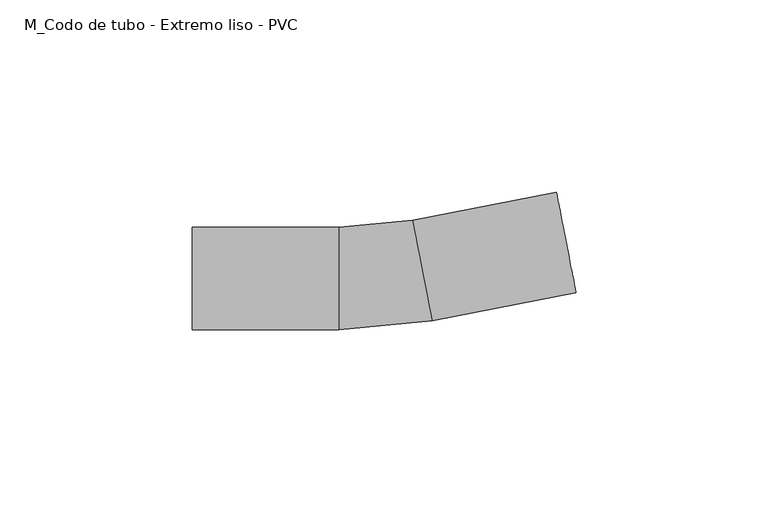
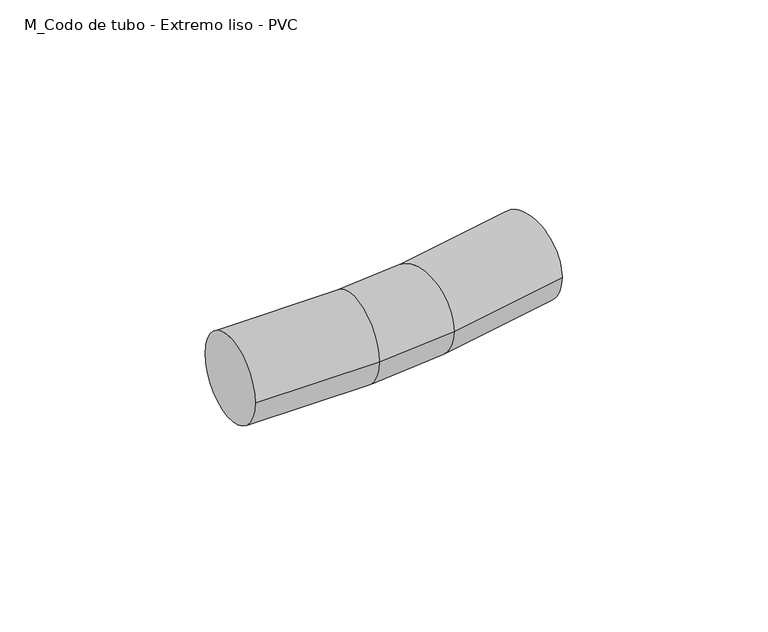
"""IFC4 building model written with IfcOpenShell, lengths in millimetres: cable carrier fitting geometry, M_Codo de tubo - Extremo liso - PVC : CODO ILUMINACION."""

from ifc_helpers import new_model, si_unit, point, frame, origin, place, context, project, spatial, circle_curve, ellipse_curve, trimmed, source, transform, mapped, element, save
from ifc_brep_helpers import plane_surface, cylinder_surface, revolved_surface, advanced_brep


def m_codo_de_tubo_extremo_liso_pvc_01378b5f(model_context):
    return source(origin(), model_context, "Body", "AdvancedBrep", [
        advanced_brep(
        [(-49.1150225, -13.335, 0.0), (-49.1150225, 13.335, 0.0), (-11.0150225, -13.335, 0.0), (-11.0150225, 13.335, 0.0), (8.2657885, 15.1930802, 0.0), (13.3588329, -10.9861062, 0.0), (50.7576705, -3.7103285, 0.0), (45.6646261, 22.4688579, 0.0)],
        [
            (0, 1, circle_curve(frame((-49.1150225, 0.0, 0.0), z_axis=(-1.0, 0.0, 0.0), x_axis=(0.0, 1.0, 0.0)), 13.335)),
            (1, 0, circle_curve(frame((-49.1150225, 0.0, 0.0), z_axis=(-1.0, 0.0, 0.0), x_axis=(0.0, 1.0, 0.0)), 13.335)),
            (0, 2),
            (2, 3, circle_curve(frame((-11.0150225, 0.0, 0.0), z_axis=(-1.0, 0.0, 0.0), x_axis=(0.0, 1.0, 0.0)), 13.335)),
            (3, 1),
            (3, 2, circle_curve(frame((-11.0150225, 0.0, 0.0), z_axis=(-1.0, 0.0, 0.0), x_axis=(0.0, 1.0, 0.0)), 13.335)),
            (4, 3, circle_curve(frame((-11.0150225, 114.3, 0.0), z_axis=(0.0, 0.0, -1.0), x_axis=(0.0, -1.0, 0.0)), 100.965)),
            (2, 5, circle_curve(frame((-11.0150225, 114.3, 0.0), z_axis=(0.0, 0.0, 1.0), x_axis=(0.0, -1.0, 0.0)), 127.635)),
            (5, 4, circle_curve(frame((10.8123107, 2.103487, 0.0), z_axis=(-0.9815967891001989, -0.19096529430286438, 0.0), x_axis=(-0.19096529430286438, 0.9815967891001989, 0.0)), 13.335)),
            (4, 5, circle_curve(frame((10.8123107, 2.103487, 0.0), z_axis=(-0.9815967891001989, -0.1909652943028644, 0.0), x_axis=(-0.1909652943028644, 0.9815967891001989, 0.0)), 13.335)),
            (6, 7, circle_curve(frame((48.2111483, 9.3792647, 0.0), z_axis=(0.981596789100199, 0.1909652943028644, 0.0), x_axis=(-0.1909652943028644, 0.981596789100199, 0.0)), 13.335)),
            (7, 6, circle_curve(frame((48.2111483, 9.3792647, 0.0), z_axis=(0.981596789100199, 0.1909652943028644, 0.0), x_axis=(-0.1909652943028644, 0.981596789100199, 0.0)), 13.335)),
            (5, 6),
            (7, 4),
        ],
        [
            plane_surface(frame((-49.1150225, 0.0, 0.0), z_axis=(-1.0, 0.0, 0.0), x_axis=(0.0, 0.0, 1.0))),
            cylinder_surface(frame((-49.1150225, 0.0, 0.0), z_axis=(-1.0, 0.0, 0.0), x_axis=(0.0, 1.0, 0.0)), 13.335),
            revolved_surface(trimmed(ellipse_curve(frame((-11.0150225, 0.0, 0.0), z_axis=(-1.0, 0.0, 0.0), x_axis=(0.0, 1.0, 0.0)), 13.335, 13.335), [point((-11.0150225, -13.335, 0.0))], [point((-11.0150225, 13.335, 0.0))], True, "CARTESIAN"), (-11.0150225, 114.3, 0.0), (0.0, 0.0, 1.0)),
            revolved_surface(trimmed(ellipse_curve(frame((-11.0150225, 0.0, 0.0), z_axis=(-1.0, 0.0, 0.0), x_axis=(0.0, 1.0, 0.0)), 13.335, 13.335), [point((-11.0150225, 13.335, 0.0))], [point((-11.0150225, -13.335, 0.0))], True, "CARTESIAN"), (-11.0150225, 114.3, 0.0), (0.0, 0.0, 1.0)),
            plane_surface(frame((48.2111483, 9.3792647, 0.0), z_axis=(0.981596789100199, 0.1909652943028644, 0.0), x_axis=(0.0, 0.0, 1.0))),
            cylinder_surface(frame((10.8123107, 2.103487, 0.0), z_axis=(-0.981596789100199, -0.1909652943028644, 0.0), x_axis=(-0.1909652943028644, 0.981596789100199, 0.0)), 13.335),
        ],
        [
            (0, [[1, 2]]),
            (1, [[-1, 3, 4, 5]]),
            (1, [[-2, -5, 6, -3]]),
            (2, [[7, -4, 8, 9]]),
            (3, [[-8, -6, -7, 10]]),
            (4, [[11, 12]]),
            (5, [[-9, 13, -12, 14]]),
            (5, [[-10, -14, -11, -13]]),
        ],
    ),
    ])


if __name__ == "__main__":
    model = new_model("IFC4")
    model_context = context("Model", 3, world=origin())
    ifc_project = project(units=[si_unit("LENGTHUNIT", "METRE", prefix="MILLI")], contexts=[model_context])
    site = spatial("IfcSite", under=ifc_project)
    building = spatial("IfcBuilding", under=site)
    placement = place(None, origin())
    m_codo_de_tubo_extremo_liso_pvc_shape = m_codo_de_tubo_extremo_liso_pvc_01378b5f(model_context)
    element("IfcCableCarrierFitting", 1, ObjectType="M_Codo de tubo - Extremo liso - PVC : CODO ILUMINACION", at=placement, inside=building, context=model_context, shape_type="MappedRepresentation", body=[
        mapped(m_codo_de_tubo_extremo_liso_pvc_shape, transform((0.0, 0.0, 0.0), x_axis=(1.0, 0.0, 0.0), y_axis=(0.0, 1.0, 0.0), z_axis=(0.0, 0.0, 1.0))),
    ])
    save(model, "model.ifc")
